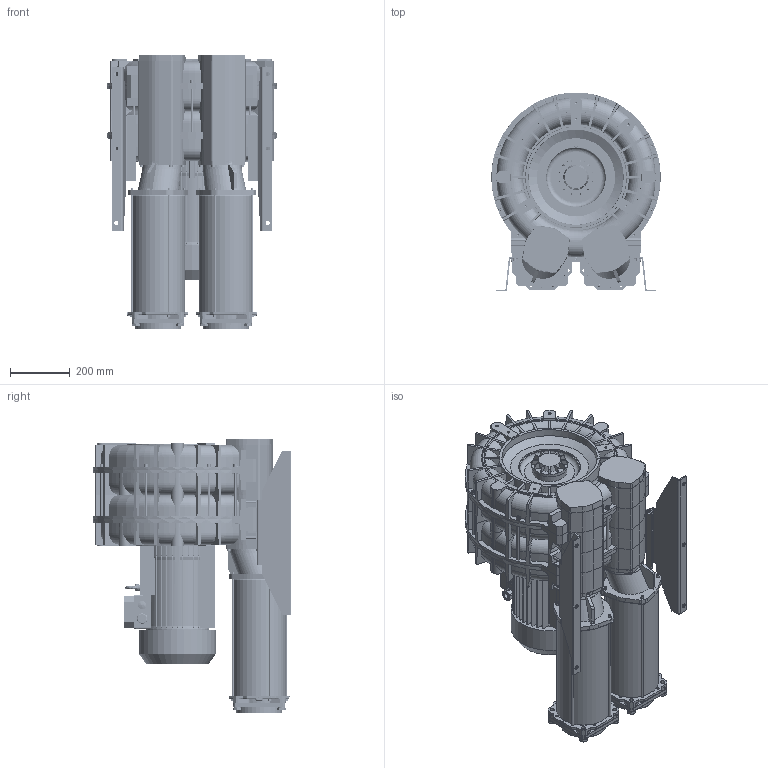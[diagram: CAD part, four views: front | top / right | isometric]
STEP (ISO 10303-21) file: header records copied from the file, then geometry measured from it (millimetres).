
FILE_DESCRIPTION (( 'STEP AP203' ), '1' );
FILE_NAME ('STP-L_e_12_TS_MOR_IE3WR_132_15.0kW-3_24-00.step', '2025-01-15T11:00:54', ( '' ), ( '' ), 'SwSTEP 2.0', 'SolidWorks 2024', '' );
FILE_SCHEMA (( 'CONFIG_CONTROL_DESIGN' ));
Length unit declared in the file: millimetre
Products named in the file (1): STP-L_e_12_TS_MOR_IE3WR_132_15.0kW-3_24-00
Bounding box: 568 x 666 x 921.5 mm (x, y, z)
Volume: 113563560.7 mm3; surface area: 6352013.7 mm2
Topology: 111 solids, 111 shells, 4618 faces, 12137 edges, 7713 vertices
Faces by surface type: plane 2208, cylinder 1218, cone 422, torus 393, bspline 336, sphere 41
Full cylindrical faces by diameter (mm): 6.8 x16, 7.5 x8, 8 x33, 8.4 x29, 8.5 x16, 8.566 x2, 8.8 x2, 9 x24, 9.728 x2, 9.98 x2, 10 x11, 11 x8, 12 x6, 12.02 x2, 13 x54, 14 x10, 16 x12, 17 x16, 18 x1, 19 x1, 20 x2, 21.4 x1, 24 x20, 25 x3, 28 x1, 115 x4, 120 x1, 128 x2, 136 x2, 149 x2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
Entity records: 162613 total; most frequent: CARTESIAN_POINT 56017, ORIENTED_EDGE 22588, DIRECTION 21140, EDGE_CURVE 11294, AXIS2_PLACEMENT_3D 8066, VERTEX_POINT 7514, EDGE_LOOP 5502, VECTOR 5008
